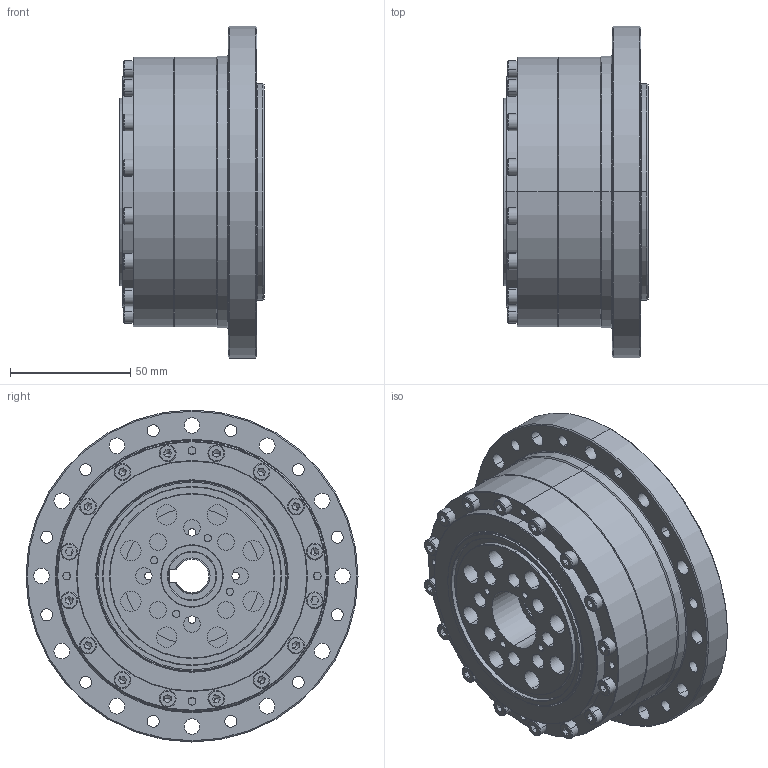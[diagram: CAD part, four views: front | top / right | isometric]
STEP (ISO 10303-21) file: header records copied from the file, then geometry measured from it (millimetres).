
FILE_DESCRIPTION (( 'STEP AP203' ), '1' );
FILE_NAME ('BCSG-32-XXX-U-¢ñ.STEP', '2019-01-15T03:36:13', ( 'User' ), ( 'China' ), 'SwSTEP 2.0', 'SolidWorks 2015', '' );
FILE_SCHEMA (( 'CONFIG_CONTROL_DESIGN' ));
Length unit declared in the file: millimetre
Products named in the file (1): BCSG-32-XXX-U-ｉ
Bounding box: 60 x 138 x 138 mm (x, y, z)
Surface area: 96478.4 mm2 (no closed solid volume)
Topology: 0 solids, 31 shells, 488 faces, 1572 edges, 1014 vertices
Faces by surface type: cylinder 181, plane 145, cone 97, sphere 40, torus 21, bspline 4
Entity records: 18693 total; most frequent: CARTESIAN_POINT 5247, DIRECTION 2940, ORIENTED_EDGE 2532, EDGE_CURVE 1444, AXIS2_PLACEMENT_3D 1158, VERTEX_POINT 954, CIRCLE 673, EDGE_LOOP 635
